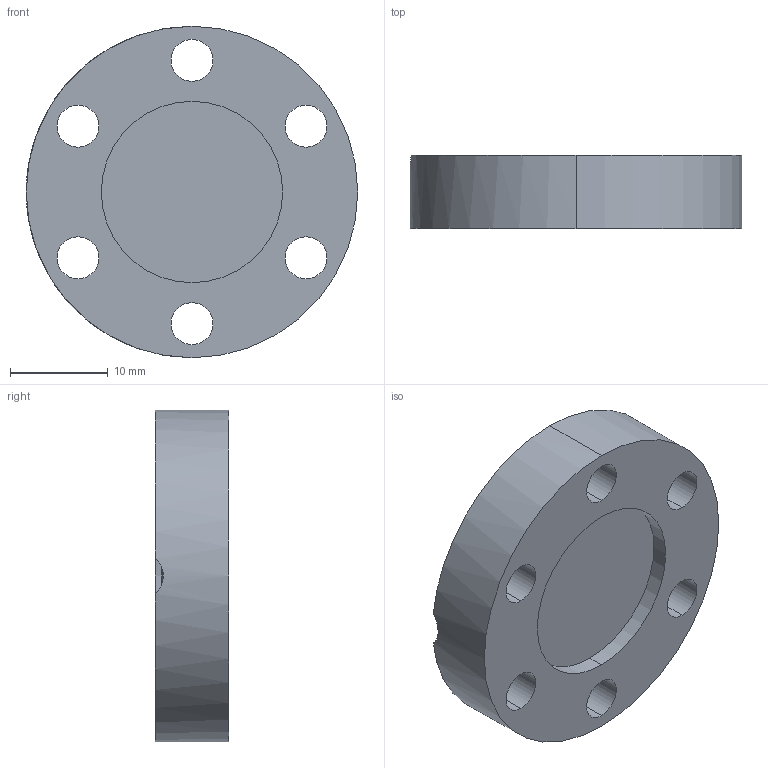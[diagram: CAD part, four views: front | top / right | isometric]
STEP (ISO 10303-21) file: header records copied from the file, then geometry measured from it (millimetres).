
FILE_DESCRIPTION (( 'STEP AP214' ), '1' );
FILE_NAME ('W6BCFD16.STEP', '2021-02-23T12:40:05', ( '' ), ( '' ), 'SwSTEP 2.0', 'SolidWorks 2020', '' );
FILE_SCHEMA (( 'AUTOMOTIVE_DESIGN' ));
Length unit declared in the file: millimetre
Products named in the file (1): W6BCFD16
Bounding box: 34 x 7.5 x 34 mm (x, y, z)
Volume: 5267.8 mm3; surface area: 4040.4 mm2
Topology: 2 solids, 2 shells, 39 faces, 92 edges, 58 vertices
Faces by surface type: cylinder 23, cone 6, plane 6, torus 4
Entity records: 1247 total; most frequent: DIRECTION 230, CARTESIAN_POINT 224, ORIENTED_EDGE 184, AXIS2_PLACEMENT_3D 100, EDGE_CURVE 92, CIRCLE 60, VERTEX_POINT 58, EDGE_LOOP 54
